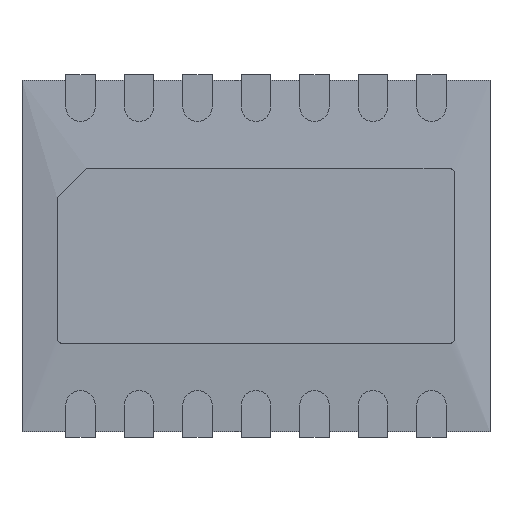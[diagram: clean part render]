
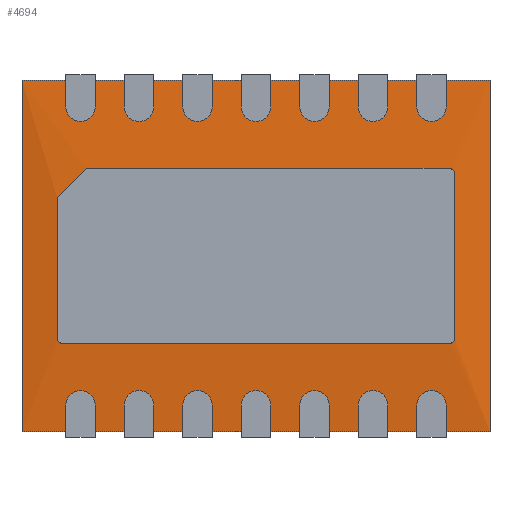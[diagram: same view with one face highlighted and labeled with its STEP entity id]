
A CAD part, front view. The second image highlights one B-rep face of the part: STEP entity #4694.
In plain terms, the highlighted planar face has unit normal (0, -1, 0).
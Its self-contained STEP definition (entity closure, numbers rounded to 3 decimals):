
#4468 = CARTESIAN_POINT ( 'NONE',  ( -2., 0.05, -1.5 ) ) ;
#4469 = VERTEX_POINT ( 'NONE', #4468 ) ;
#4470 = CARTESIAN_POINT ( 'NONE',  ( -2., 0.05, 1.5 ) ) ;
#4471 = VERTEX_POINT ( 'NONE', #4470 ) ;
#4472 = CARTESIAN_POINT ( 'NONE',  ( -2., 0.05, 1.5 ) ) ;
#4473 = DIRECTION ( 'NONE',  ( 0., 0., 1. ) ) ;
#4474 = VECTOR ( 'NONE', #4473, 1000. ) ;
#4475 = LINE ( 'NONE', #4472, #4474 ) ;
#4476 = EDGE_CURVE ( 'NONE', #4469, #4471, #4475, .T. ) ;
#4508 = CARTESIAN_POINT ( 'NONE',  ( 2., 0.05, 1.5 ) ) ;
#4509 = VERTEX_POINT ( 'NONE', #4508 ) ;
#4510 = CARTESIAN_POINT ( 'NONE',  ( 2., 0.05, 1.5 ) ) ;
#4511 = DIRECTION ( 'NONE',  ( 1., 0., 0. ) ) ;
#4512 = VECTOR ( 'NONE', #4511, 1000. ) ;
#4513 = LINE ( 'NONE', #4510, #4512 ) ;
#4514 = EDGE_CURVE ( 'NONE', #4471, #4509, #4513, .T. ) ;
#4539 = CARTESIAN_POINT ( 'NONE',  ( 2., 0.05, -1.5 ) ) ;
#4540 = VERTEX_POINT ( 'NONE', #4539 ) ;
#4541 = CARTESIAN_POINT ( 'NONE',  ( 2., 0.05, 1.5 ) ) ;
#4542 = DIRECTION ( 'NONE',  ( 0., 0., -1. ) ) ;
#4543 = VECTOR ( 'NONE', #4542, 1000. ) ;
#4544 = LINE ( 'NONE', #4541, #4543 ) ;
#4545 = EDGE_CURVE ( 'NONE', #4509, #4540, #4544, .T. ) ;
#4570 = CARTESIAN_POINT ( 'NONE',  ( 2., 0.05, -1.5 ) ) ;
#4571 = DIRECTION ( 'NONE',  ( -1., 0., 0. ) ) ;
#4572 = VECTOR ( 'NONE', #4571, 1000. ) ;
#4573 = LINE ( 'NONE', #4570, #4572 ) ;
#4574 = EDGE_CURVE ( 'NONE', #4540, #4469, #4573, .T. ) ;
#4614 = CARTESIAN_POINT ( 'NONE',  ( 1.7, 0., -0.7 ) ) ;
#4615 = VERTEX_POINT ( 'NONE', #4614 ) ;
#4616 = CARTESIAN_POINT ( 'NONE',  ( 1.7, 0., 0.7 ) ) ;
#4617 = VERTEX_POINT ( 'NONE', #4616 ) ;
#4618 = CARTESIAN_POINT ( 'NONE',  ( 1.7, 0., -0.75 ) ) ;
#4619 = DIRECTION ( 'NONE',  ( 0., 0., 1. ) ) ;
#4620 = VECTOR ( 'NONE', #4619, 1000. ) ;
#4621 = LINE ( 'NONE', #4618, #4620 ) ;
#4622 = EDGE_CURVE ( 'NONE', #4615, #4617, #4621, .T. ) ;
#4623 = ORIENTED_EDGE ( 'NONE', *, *, #4622, .F. ) ;
#4624 = CARTESIAN_POINT ( 'NONE',  ( 1.65, 0., -0.75 ) ) ;
#4625 = VERTEX_POINT ( 'NONE', #4624 ) ;
#4626 = CARTESIAN_POINT ( 'NONE',  ( 1.65, 0., -0.7 ) ) ;
#4627 = DIRECTION ( 'NONE',  ( 0., 1., 0. ) ) ;
#4628 = DIRECTION ( 'NONE',  ( 0., 0., -1. ) ) ;
#4629 = AXIS2_PLACEMENT_3D ( 'NONE', #4626, #4627, #4628 ) ;
#4630 = CIRCLE ( 'NONE', #4629, 0.05) ;
#4631 = EDGE_CURVE ( 'NONE', #4615, #4625, #4630, .T. ) ;
#4632 = ORIENTED_EDGE ( 'NONE', *, *, #4631, .T. ) ;
#4633 = CARTESIAN_POINT ( 'NONE',  ( -1.65, 0., -0.75 ) ) ;
#4634 = VERTEX_POINT ( 'NONE', #4633 ) ;
#4635 = CARTESIAN_POINT ( 'NONE',  ( -1.7, 0., -0.75 ) ) ;
#4636 = DIRECTION ( 'NONE',  ( 1., 0., 0. ) ) ;
#4637 = VECTOR ( 'NONE', #4636, 1000. ) ;
#4638 = LINE ( 'NONE', #4635, #4637 ) ;
#4639 = EDGE_CURVE ( 'NONE', #4634, #4625, #4638, .T. ) ;
#4640 = ORIENTED_EDGE ( 'NONE', *, *, #4639, .F. ) ;
#4641 = CARTESIAN_POINT ( 'NONE',  ( -1.7, 0., -0.7 ) ) ;
#4642 = VERTEX_POINT ( 'NONE', #4641 ) ;
#4643 = CARTESIAN_POINT ( 'NONE',  ( -1.65, 0., -0.7 ) ) ;
#4644 = DIRECTION ( 'NONE',  ( 0., 1., 0. ) ) ;
#4645 = DIRECTION ( 'NONE',  ( 0., 0., -1. ) ) ;
#4646 = AXIS2_PLACEMENT_3D ( 'NONE', #4643, #4644, #4645 ) ;
#4647 = CIRCLE ( 'NONE', #4646, 0.05) ;
#4648 = EDGE_CURVE ( 'NONE', #4634, #4642, #4647, .T. ) ;
#4649 = ORIENTED_EDGE ( 'NONE', *, *, #4648, .T. ) ;
#4650 = CARTESIAN_POINT ( 'NONE',  ( -1.7, 0., 0.5 ) ) ;
#4651 = VERTEX_POINT ( 'NONE', #4650 ) ;
#4652 = CARTESIAN_POINT ( 'NONE',  ( -1.7, 0., -0.75 ) ) ;
#4653 = DIRECTION ( 'NONE',  ( 0., 0., -1. ) ) ;
#4654 = VECTOR ( 'NONE', #4653, 1000. ) ;
#4655 = LINE ( 'NONE', #4652, #4654 ) ;
#4656 = EDGE_CURVE ( 'NONE', #4651, #4642, #4655, .T. ) ;
#4657 = ORIENTED_EDGE ( 'NONE', *, *, #4656, .F. ) ;
#4658 = CARTESIAN_POINT ( 'NONE',  ( -1.45, 0., 0.75 ) ) ;
#4659 = VERTEX_POINT ( 'NONE', #4658 ) ;
#4660 = CARTESIAN_POINT ( 'NONE',  ( -1.7, 0., 0.5 ) ) ;
#4661 = DIRECTION ( 'NONE',  ( 0.707, 0., 0.707 ) ) ;
#4662 = VECTOR ( 'NONE', #4661, 1000. ) ;
#4663 = LINE ( 'NONE', #4660, #4662 ) ;
#4664 = EDGE_CURVE ( 'NONE', #4651, #4659, #4663, .T. ) ;
#4665 = ORIENTED_EDGE ( 'NONE', *, *, #4664, .T. ) ;
#4666 = CARTESIAN_POINT ( 'NONE',  ( 1.65, 0., 0.75 ) ) ;
#4667 = VERTEX_POINT ( 'NONE', #4666 ) ;
#4668 = CARTESIAN_POINT ( 'NONE',  ( -1.7, 0., 0.75 ) ) ;
#4669 = DIRECTION ( 'NONE',  ( -1., 0., 0. ) ) ;
#4670 = VECTOR ( 'NONE', #4669, 1000. ) ;
#4671 = LINE ( 'NONE', #4668, #4670 ) ;
#4672 = EDGE_CURVE ( 'NONE', #4667, #4659, #4671, .T. ) ;
#4673 = ORIENTED_EDGE ( 'NONE', *, *, #4672, .F. ) ;
#4674 = CARTESIAN_POINT ( 'NONE',  ( 1.65, 0., 0.7 ) ) ;
#4675 = DIRECTION ( 'NONE',  ( 0., 1., 0. ) ) ;
#4676 = DIRECTION ( 'NONE',  ( 0., 0., -1. ) ) ;
#4677 = AXIS2_PLACEMENT_3D ( 'NONE', #4674, #4675, #4676 ) ;
#4678 = CIRCLE ( 'NONE', #4677, 0.05) ;
#4679 = EDGE_CURVE ( 'NONE', #4667, #4617, #4678, .T. ) ;
#4680 = ORIENTED_EDGE ( 'NONE', *, *, #4679, .T. ) ;
#4681 = EDGE_LOOP ( 'NONE', ( #4623, #4632, #4640, #4649, #4657, #4665, #4673, #4680 ) ) ;
#4682 = FACE_BOUND ( 'NONE', #4681, .T. ) ;
#4683 = ORIENTED_EDGE ( 'NONE', *, *, #4476, .F. ) ;
#4684 = ORIENTED_EDGE ( 'NONE', *, *, #4574, .F. ) ;
#4685 = ORIENTED_EDGE ( 'NONE', *, *, #4545, .F. ) ;
#4686 = ORIENTED_EDGE ( 'NONE', *, *, #4514, .F. ) ;
#4687 = EDGE_LOOP ( 'NONE', ( #4683, #4684, #4685, #4686 ) ) ;
#4688 = FACE_OUTER_BOUND ( 'NONE', #4687, .T. ) ;
#4689 = CARTESIAN_POINT ( 'NONE',  ( 0., 0.05, 0. ) ) ;
#4690 = DIRECTION ( 'NONE',  ( 0., 1., 0. ) ) ;
#4691 = DIRECTION ( 'NONE',  ( 0., 0., 1. ) ) ;
#4692 = AXIS2_PLACEMENT_3D ( 'NONE', #4689, #4690, #4691 ) ;
#4693 = PLANE ( 'NONE', #4692 ) ;
#4694 = ADVANCED_FACE ( 'NONE', ( #4682, #4688 ), #4693, .F. ) ;
